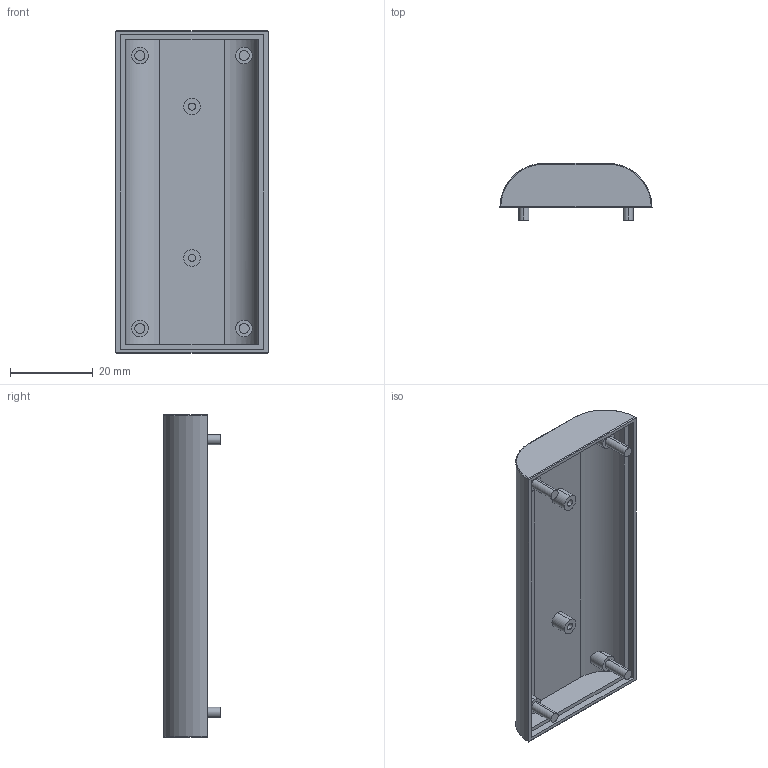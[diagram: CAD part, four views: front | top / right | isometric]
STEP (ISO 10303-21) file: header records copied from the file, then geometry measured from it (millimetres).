
FILE_DESCRIPTION (( 'STEP AP214' ), '1' );
FILE_NAME ('Cos PP23.STEP', '2017-11-28T11:08:06', ( 'aaa' ), ( '' ), 'SwSTEP 2.0', 'SolidWorks 2013', '' );
FILE_SCHEMA (( 'AUTOMOTIVE_DESIGN' ));
Length unit declared in the file: millimetre
Products named in the file (1): Cos PP23
Bounding box: 36.8 x 13.7 x 78 mm (x, y, z)
Volume: 8702.9 mm3; surface area: 9082.6 mm2
Topology: 1 solids, 1 shells, 60 faces, 124 edges, 80 vertices
Faces by surface type: cylinder 32, plane 24, torus 4
Entity records: 1850 total; most frequent: CARTESIAN_POINT 505, DIRECTION 290, ORIENTED_EDGE 248, EDGE_CURVE 124, AXIS2_PLACEMENT_3D 117, VERTEX_POINT 80, EDGE_LOOP 74, ADVANCED_FACE 60
